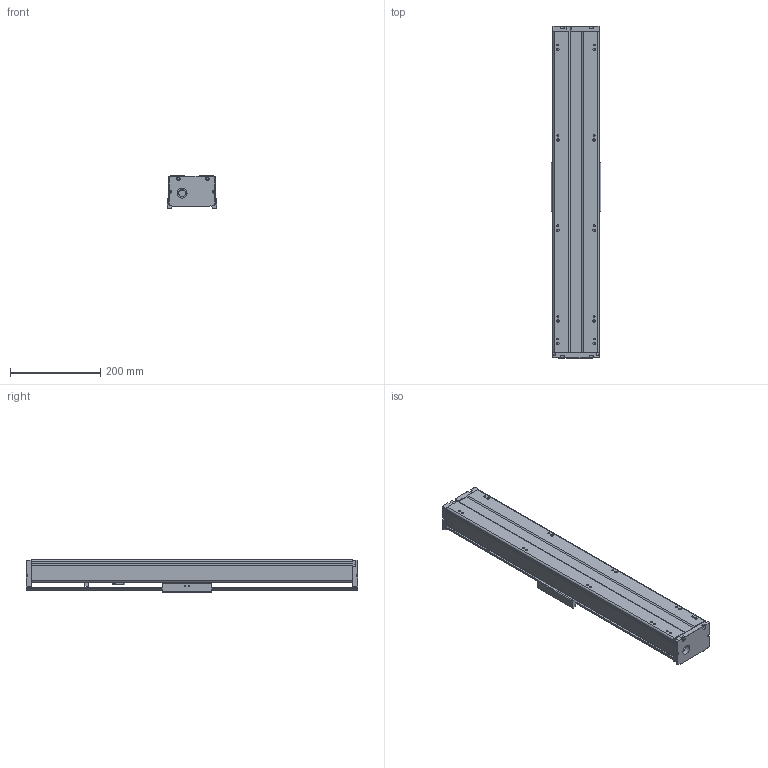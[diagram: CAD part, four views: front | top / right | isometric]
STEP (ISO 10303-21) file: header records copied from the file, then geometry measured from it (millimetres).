
FILE_DESCRIPTION(/* description */ (''),/* implementation_level */ '2;1');
FILE_NAME(/* name */ 'TKA100-350A1FI_asm1.stp',/* time_stamp */ '2017-02-21T08:23:15+08:00',/* author */ (''),/* organization */ (''),/* preprocessor_version */ 'ST-DEVELOPER v15',/* originating_system */ 'SIEMENS PLM Software NX 8.5',/* authorisation */ '');
FILE_SCHEMA (('AUTOMOTIVE_DESIGN { 1 0 10303 214 3 1 1 1 }'));
Length unit declared in the file: millimetre
Products named in the file (3): 200-0250; 200-0151; TKA100-350A1FI_asm1_stp
Assembly tree (2 placements, depth 2):
  TKA100-350A1FI_asm1_stp
    200-0151
    200-0250
Bounding box: 110 x 734 x 71 mm (x, y, z)
Volume: 1669724.5 mm3; surface area: 534812.6 mm2
Topology: 2 solids, 9 shells, 849 faces, 2190 edges, 1387 vertices
Faces by surface type: plane 357, cylinder 285, cone 147, torus 34, bspline 26
Full cylindrical faces by diameter (mm): 2.5 x4, 2.6 x8, 3.3 x8, 3.4 x4, 3.8 x4, 4.2 x19, 4.3 x4, 4.5 x4, 5 x1, 5.5 x22, 6.6 x4, 8 x5, 9 x4, 10 x10, 11 x4, 12 x7, 15.3 x1, 16 x1, 22 x1, 24 x1, 28 x5, 30 x1
Entity records: 30256 total; most frequent: CARTESIAN_POINT 10496, DIRECTION 4104, ORIENTED_EDGE 3842, EDGE_CURVE 1921, AXIS2_PLACEMENT_3D 1582, VERTEX_POINT 1316, EDGE_LOOP 1131, LINE 940
